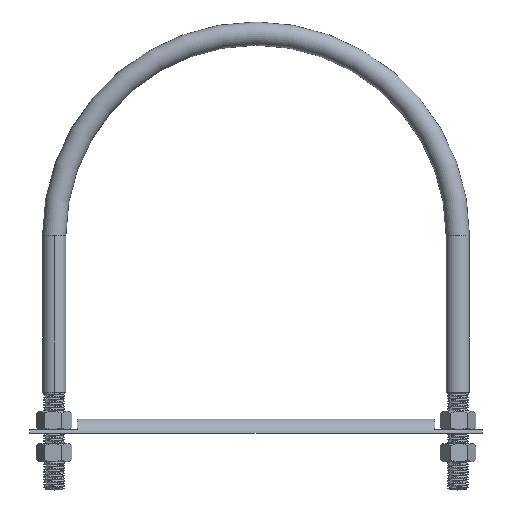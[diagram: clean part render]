
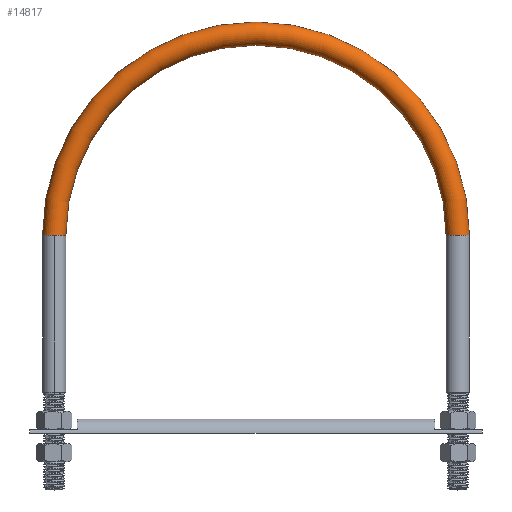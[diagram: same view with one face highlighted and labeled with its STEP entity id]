
A CAD part, top view. The second image highlights one B-rep face of the part: STEP entity #14817.
In plain terms, the highlighted toroidal (fillet/blend) face has major radius 249.238 mm and minor radius 14.383 mm.
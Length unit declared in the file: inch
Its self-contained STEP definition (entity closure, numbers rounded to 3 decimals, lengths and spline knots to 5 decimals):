
#660 = CARTESIAN_POINT ( 'NONE',  ( 10.37875, 12.375, 0. ) ) ;
#827 = AXIS2_PLACEMENT_3D ( 'NONE', #19436, #3885, #11860 ) ;
#1459 = CARTESIAN_POINT ( 'NONE',  ( -9.24625, 12.375, 0. ) ) ;
#1830 = EDGE_CURVE ( 'Edge1', #18884, #12700, #5288, .T. ) ;
#2025 = ORIENTED_EDGE ( 'NONE', *, *, #7849, .T. ) ;
#2775 = DIRECTION ( 'NONE',  ( 0., 0., 1. ) ) ;
#2810 = DIRECTION ( 'NONE',  ( 0., 0., 1. ) ) ;
#3611 = CARTESIAN_POINT ( 'NONE',  ( 0., 12.375, 0. ) ) ;
#3734 = ORIENTED_EDGE ( 'NONE', *, *, #7113, .F. ) ;
#3806 = CARTESIAN_POINT ( 'NONE',  ( 0., 12.375, 0. ) ) ;
#3814 = VERTEX_POINT ( 'NONE', #660 ) ;
#3885 = DIRECTION ( 'NONE',  ( 0., 0., 1. ) ) ;
#4047 = CIRCLE ( 'NONE', #6311, 9.24625 ) ;
#4060 = EDGE_CURVE ( 'NONE', #15282, #3814, #6593, .T. ) ;
#4992 = CIRCLE ( 'NONE', #13064, 0.56625 ) ;
#5153 = EDGE_CURVE ( 'Edge1', #12700, #9121, #4992, .T. ) ;
#5288 = CIRCLE ( 'NONE', #17868, 0.56625 ) ;
#6311 = AXIS2_PLACEMENT_3D ( 'NONE', #3806, #10158, #8251 ) ;
#6593 = CIRCLE ( 'NONE', #14345, 0.56625 ) ;
#7113 = EDGE_CURVE ( 'NONE', #15282, #18884, #4047, .T. ) ;
#7270 = CIRCLE ( 'NONE', #827, 10.37875 ) ;
#7849 = EDGE_CURVE ( 'NONE', #3814, #9121, #7270, .T. ) ;
#8251 = DIRECTION ( 'NONE',  ( 1., 0., 0. ) ) ;
#8253 = FACE_OUTER_BOUND ( 'NONE', #18072, .T. ) ;
#8455 = DIRECTION ( 'NONE',  ( 1., 0., 0. ) ) ;
#8505 = CARTESIAN_POINT ( 'NONE',  ( 9.24625, 12.375, 0. ) ) ;
#8759 = DIRECTION ( 'NONE',  ( 0., -1., 0. ) ) ;
#8898 = ORIENTED_EDGE ( 'NONE', *, *, #1830, .F. ) ;
#9121 = VERTEX_POINT ( 'NONE', #18962 ) ;
#10158 = DIRECTION ( 'NONE',  ( 0., 0., 1. ) ) ;
#10445 = CARTESIAN_POINT ( 'NONE',  ( 9.8125, 12.375, 0. ) ) ;
#11588 = DIRECTION ( 'NONE',  ( 0., 0., 1. ) ) ;
#11608 = DIRECTION ( 'NONE',  ( 0., -1., 0. ) ) ;
#11860 = DIRECTION ( 'NONE',  ( 1., 0., 0. ) ) ;
#12700 = VERTEX_POINT ( 'NONE', #17939 ) ;
#13064 = AXIS2_PLACEMENT_3D ( 'NONE', #13818, #8759, #2810 ) ;
#13818 = CARTESIAN_POINT ( 'NONE',  ( -9.8125, 12.375, 0. ) ) ;
#14345 = AXIS2_PLACEMENT_3D ( 'NONE', #10445, #16633, #2775 ) ;
#14378 = ORIENTED_EDGE ( 'NONE', *, *, #4060, .T. ) ;
#14817 = ADVANCED_FACE ( 'Face1', ( #8253 ), #19273, .T. ) ;
#15175 = ORIENTED_EDGE ( 'NONE', *, *, #5153, .F. ) ;
#15282 = VERTEX_POINT ( 'NONE', #8505 ) ;
#16264 = CARTESIAN_POINT ( 'NONE',  ( -9.8125, 12.375, 0. ) ) ;
#16463 = DIRECTION ( 'NONE',  ( 0., 0., 1. ) ) ;
#16633 = DIRECTION ( 'NONE',  ( 0., 1., 0. ) ) ;
#17025 = AXIS2_PLACEMENT_3D ( 'NONE', #3611, #11588, #8455 ) ;
#17868 = AXIS2_PLACEMENT_3D ( 'NONE', #16264, #11608, #16463 ) ;
#17939 = CARTESIAN_POINT ( 'NONE',  ( -9.8125, 12.375, 0.56625 ) ) ;
#18072 = EDGE_LOOP ( 'NONE', ( #14378, #2025, #15175, #8898, #3734 ) ) ;
#18884 = VERTEX_POINT ( 'NONE', #1459 ) ;
#18962 = CARTESIAN_POINT ( 'NONE',  ( -10.37875, 12.375, 0. ) ) ;
#19273 = TOROIDAL_SURFACE ( 'NONE', #17025, 9.8125, 0.56625 ) ;
#19436 = CARTESIAN_POINT ( 'NONE',  ( 0., 12.375, 0. ) ) ;
